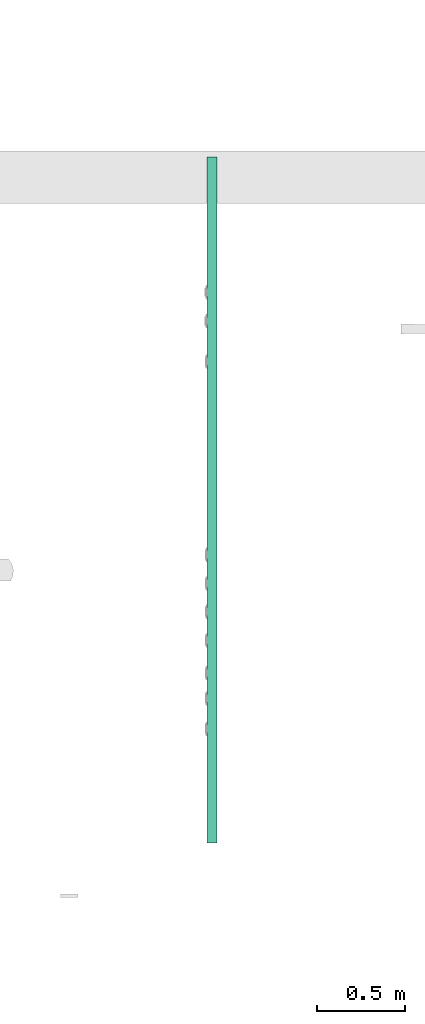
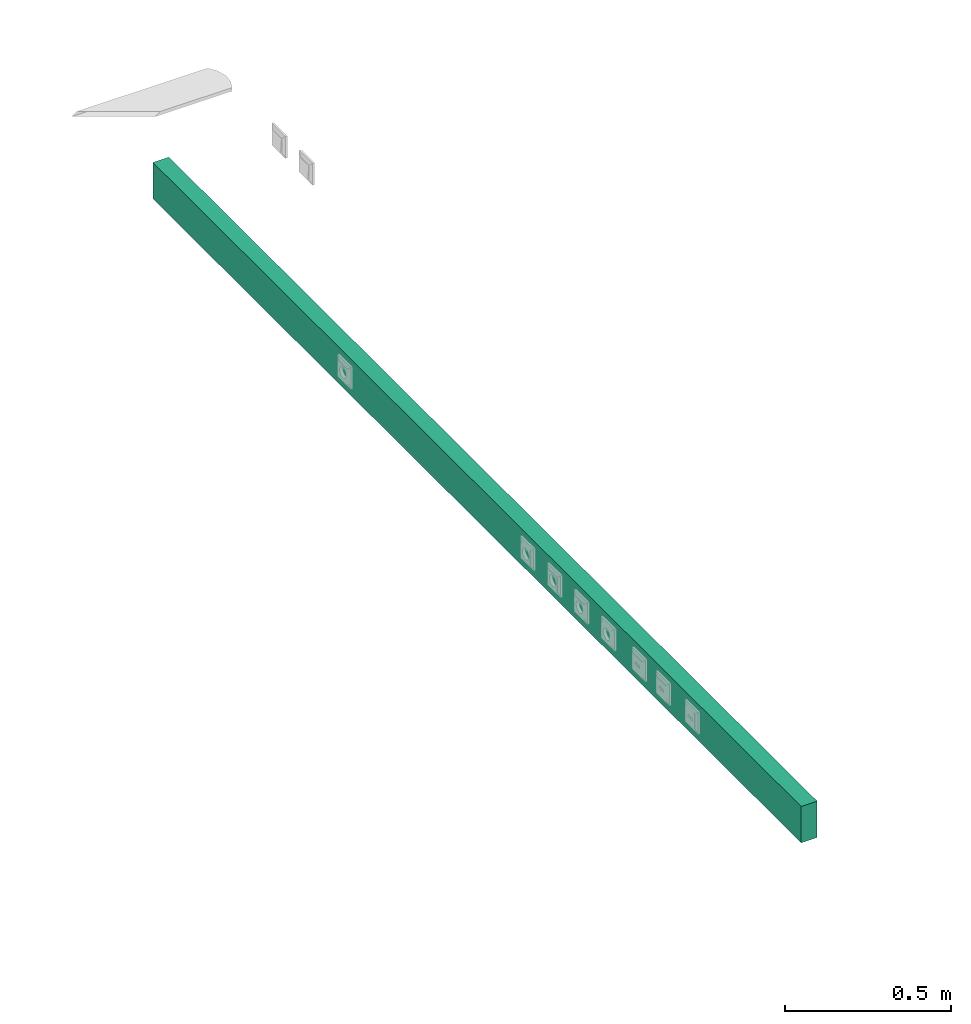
# One storey, part 3 of 166: 1 flow segment.
"""IFC2X3 building model written with IfcOpenShell, lengths in metres."""

from ifc_helpers import new_model, entity, si_unit, converted_unit, derived_unit, direction, frame, frame_2d, origin, place, context, subcontext, project, spatial, rectangle, extrude, type_object, element, save


model = new_model("IFC2X3")

# Units and contexts
model_context = context("Model", 3, precision=1e-05, world=origin(), true_north=direction((6.12303176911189e-17, 1.0)))
body_context = subcontext(model_context, "Body", "Model", "MODEL_VIEW")
ifc_project = project(units=[si_unit("LENGTHUNIT", "METRE"), si_unit("AREAUNIT", "SQUARE_METRE"), si_unit("VOLUMEUNIT", "CUBIC_METRE"), converted_unit("PLANEANGLEUNIT", "DEGREE", entity("IfcRatioMeasure", 0.0174532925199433), si_unit("PLANEANGLEUNIT", "RADIAN"), dimensions=[0, 0, 0, 0, 0, 0, 0]), si_unit("MASSUNIT", "GRAM", prefix="KILO"), derived_unit("MASSDENSITYUNIT", [(si_unit("MASSUNIT", "GRAM", prefix="KILO"), 1), (si_unit("LENGTHUNIT", "METRE"), -3)]), si_unit("TIMEUNIT", "SECOND"), si_unit("FREQUENCYUNIT", "HERTZ"), si_unit("THERMODYNAMICTEMPERATUREUNIT", "DEGREE_CELSIUS"), derived_unit("THERMALTRANSMITTANCEUNIT", [(si_unit("MASSUNIT", "GRAM", prefix="KILO"), 1), (si_unit("THERMODYNAMICTEMPERATUREUNIT", "KELVIN"), -1), (si_unit("TIMEUNIT", "SECOND"), -3)]), derived_unit("VOLUMETRICFLOWRATEUNIT", [(si_unit("LENGTHUNIT", "METRE"), 3), (si_unit("TIMEUNIT", "SECOND"), -1)]), si_unit("ELECTRICCURRENTUNIT", "AMPERE"), si_unit("ELECTRICVOLTAGEUNIT", "VOLT"), si_unit("POWERUNIT", "WATT"), si_unit("FORCEUNIT", "NEWTON"), si_unit("ILLUMINANCEUNIT", "LUX"), si_unit("LUMINOUSFLUXUNIT", "LUMEN"), si_unit("LUMINOUSINTENSITYUNIT", "CANDELA"), derived_unit("USERDEFINED", [(si_unit("MASSUNIT", "GRAM", prefix="KILO"), -1), (si_unit("LENGTHUNIT", "METRE"), -2), (si_unit("TIMEUNIT", "SECOND"), 3), (si_unit("LUMINOUSFLUXUNIT", "LUMEN"), 1)]), derived_unit("LINEARVELOCITYUNIT", [(si_unit("LENGTHUNIT", "METRE"), 1), (si_unit("TIMEUNIT", "SECOND"), -1)]), si_unit("PRESSUREUNIT", "PASCAL"), derived_unit("USERDEFINED", [(si_unit("LENGTHUNIT", "METRE"), -2), (si_unit("MASSUNIT", "GRAM", prefix="KILO"), 1), (si_unit("TIMEUNIT", "SECOND"), -2)])], contexts=[model_context])

# Site, building, storey
site_placement = place(None, origin())
site = spatial("IfcSite", under=ifc_project, at=site_placement, Name="Default", CompositionType="ELEMENT")
building_placement = place(site_placement, origin())
building = spatial("IfcBuilding", under=site, at=building_placement, CompositionType="ELEMENT")
storey_placement = place(building_placement, frame((0.0, 0.0, 4.27)))
storey = spatial("IfcBuildingStorey", under=building, at=storey_placement, Name="01", CompositionType="ELEMENT", Elevation=4.27)

# Flow segment
cable_carrier_segment_type = type_object("IfcCableCarrierSegmentType", Name="Cable Tray with Fittings:Goulottes de câbles indéfini_Goulottes de câbles", PredefinedType="NOTDEFINED")
flow_segment_placement = place(storey_placement, origin())
element("IfcFlowSegment", 1, at=flow_segment_placement, inside=storey, type_object=cable_carrier_segment_type, Name="Cable Tray with Fittings:Goulottes de câbles indéfini_Goulottes de câbles", ObjectType="Cable Tray with Fittings:Goulottes de câbles indéfini_Goulottes de câbles", context=body_context, shape_type="SweptSolid", body=[
    extrude(rectangle(XDim=3.91600000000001, YDim=0.0559999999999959, at=frame_2d((0.0, -4.33160451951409e-15), x_axis=(1.0, 0.0))), frame((37.3947436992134, -191.240069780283, 0.366), z_axis=(0.0, 0.0, 1.0), x_axis=(0.0, 1.0, 0.0)), (0.0, 0.0, 1.0), 0.134),
])

save(model, "model.ifc")
